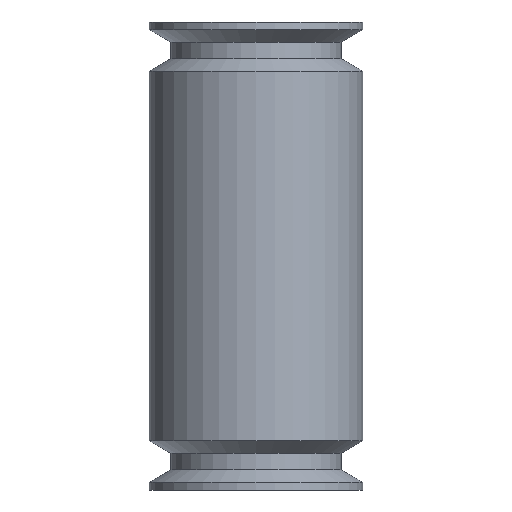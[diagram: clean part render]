
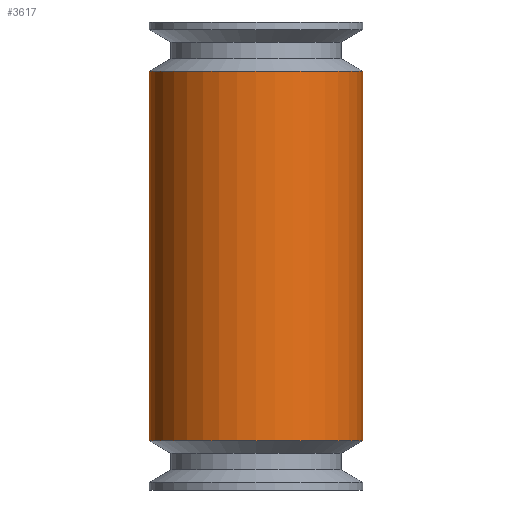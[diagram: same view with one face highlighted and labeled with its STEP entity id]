
A CAD part, front view. The second image highlights one B-rep face of the part: STEP entity #3617.
In plain terms, the highlighted cylindrical face has radius 32 mm (diameter 64 mm), a full revolution.
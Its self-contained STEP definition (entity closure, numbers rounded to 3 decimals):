
#2265=FACE_BOUND('',#5418,.T.);
#2266=FACE_BOUND('',#5419,.T.);
#2267=FACE_BOUND('',#5420,.T.);
#2439=CYLINDRICAL_SURFACE('',#15766,32.);
#2853=CIRCLE('',#15764,32.);
#2854=CIRCLE('',#15765,32.);
#3617=ADVANCED_FACE('',(#2265,#2266,#2267),#2439,.T.);
#5418=EDGE_LOOP('',(#9643));
#5419=EDGE_LOOP('',(#9644));
#5420=EDGE_LOOP('',(#9645,#9646,#9647,#9648,#9649,#9650,#9651,#9652));
#6167=B_SPLINE_CURVE_WITH_KNOTS('',3,(#32502,#32503,#32504,#32505),
 .UNSPECIFIED.,.F.,.F.,(4,4),(0.,1.),.UNSPECIFIED.);
#6168=B_SPLINE_CURVE_WITH_KNOTS('',3,(#32507,#32508,#32509,#32510,#32511,
#32512),.UNSPECIFIED.,.F.,.F.,(4,2,4),(0.,0.5,1.),.UNSPECIFIED.);
#6169=B_SPLINE_CURVE_WITH_KNOTS('',3,(#32514,#32515,#32516,#32517),
 .UNSPECIFIED.,.F.,.F.,(4,4),(0.,1.),.UNSPECIFIED.);
#6170=B_SPLINE_CURVE_WITH_KNOTS('',3,(#32518,#32519,#32520,#32521),
 .UNSPECIFIED.,.F.,.F.,(4,4),(0.,1.),.UNSPECIFIED.);
#6171=B_SPLINE_CURVE_WITH_KNOTS('',3,(#32523,#32524,#32525,#32526,#32527,
#32528),.UNSPECIFIED.,.F.,.F.,(4,2,4),(0.,0.5,1.),.UNSPECIFIED.);
#6172=B_SPLINE_CURVE_WITH_KNOTS('',3,(#32530,#32531,#32532,#32533),
 .UNSPECIFIED.,.F.,.F.,(4,4),(0.,1.),.UNSPECIFIED.);
#9643=ORIENTED_EDGE('',*,*,#12915,.T.);
#9644=ORIENTED_EDGE('',*,*,#12916,.T.);
#9645=ORIENTED_EDGE('',*,*,#12913,.T.);
#9646=ORIENTED_EDGE('',*,*,#12917,.T.);
#9647=ORIENTED_EDGE('',*,*,#12918,.T.);
#9648=ORIENTED_EDGE('',*,*,#12919,.T.);
#9649=ORIENTED_EDGE('',*,*,#12911,.T.);
#9650=ORIENTED_EDGE('',*,*,#12920,.T.);
#9651=ORIENTED_EDGE('',*,*,#12921,.T.);
#9652=ORIENTED_EDGE('',*,*,#12922,.T.);
#11085=VERTEX_POINT('',#32490);
#11086=VERTEX_POINT('',#32491);
#11087=VERTEX_POINT('',#32493);
#11088=VERTEX_POINT('',#32495);
#11089=VERTEX_POINT('',#32499);
#11090=VERTEX_POINT('',#32501);
#11091=VERTEX_POINT('',#32506);
#11092=VERTEX_POINT('',#32513);
#11093=VERTEX_POINT('',#32522);
#11094=VERTEX_POINT('',#32529);
#12911=EDGE_CURVE('',#11085,#11086,#13844,.T.);
#12913=EDGE_CURVE('',#11088,#11087,#13845,.T.);
#12915=EDGE_CURVE('',#11089,#11089,#2853,.T.);
#12916=EDGE_CURVE('',#11090,#11090,#2854,.T.);
#12917=EDGE_CURVE('',#11087,#11091,#6167,.T.);
#12918=EDGE_CURVE('',#11091,#11092,#6168,.T.);
#12919=EDGE_CURVE('',#11092,#11085,#6169,.T.);
#12920=EDGE_CURVE('',#11086,#11093,#6170,.T.);
#12921=EDGE_CURVE('',#11093,#11094,#6171,.T.);
#12922=EDGE_CURVE('',#11094,#11088,#6172,.T.);
#13844=LINE('',#32489,#14829);
#13845=LINE('',#32494,#14830);
#14829=VECTOR('',#18642,1.);
#14830=VECTOR('',#18645,1.);
#15764=AXIS2_PLACEMENT_3D('',#32498,#18650,#18651);
#15765=AXIS2_PLACEMENT_3D('',#32500,#18652,#18653);
#15766=AXIS2_PLACEMENT_3D('',#32534,#18654,#18655);
#18642=DIRECTION('',(0.,0.,-1.));
#18645=DIRECTION('',(0.,0.,1.));
#18650=DIRECTION('',(0.,0.,1.));
#18651=DIRECTION('',(1.,0.,0.));
#18652=DIRECTION('',(0.,0.,-1.));
#18653=DIRECTION('',(1.,0.,0.));
#18654=DIRECTION('',(0.,0.,1.));
#18655=DIRECTION('',(-1.,0.,0.));
#32489=CARTESIAN_POINT('',(-7.937,14.,30.));
#32490=CARTESIAN_POINT('',(-7.937,14.,152.014));
#32491=CARTESIAN_POINT('',(-7.937,14.,133.986));
#32493=CARTESIAN_POINT('',(7.937,14.,151.986));
#32494=CARTESIAN_POINT('',(7.937,14.,30.));
#32495=CARTESIAN_POINT('',(7.937,14.,134.014));
#32498=CARTESIAN_POINT('',(0.,-17.,104.753));
#32499=CARTESIAN_POINT('',(32.,-17.,104.753));
#32500=CARTESIAN_POINT('',(0.,-17.,215.247));
#32501=CARTESIAN_POINT('',(32.,-17.,215.247));
#32502=CARTESIAN_POINT('',(7.937,14.,151.986));
#32503=CARTESIAN_POINT('',(7.266,14.172,152.809));
#32504=CARTESIAN_POINT('',(6.504,14.344,153.535));
#32505=CARTESIAN_POINT('',(5.635,14.5,154.15));
#32506=CARTESIAN_POINT('',(5.635,14.5,154.15));
#32507=CARTESIAN_POINT('',(5.635,14.5,154.15));
#32508=CARTESIAN_POINT('',(3.895,14.811,155.032));
#32509=CARTESIAN_POINT('',(1.951,15.,155.497));
#32510=CARTESIAN_POINT('',(-1.943,15.,155.503));
#32511=CARTESIAN_POINT('',(-3.893,14.812,155.043));
#32512=CARTESIAN_POINT('',(-5.635,14.5,154.166));
#32513=CARTESIAN_POINT('',(-5.635,14.5,154.166));
#32514=CARTESIAN_POINT('',(-5.635,14.5,154.166));
#32515=CARTESIAN_POINT('',(-6.504,14.345,153.554));
#32516=CARTESIAN_POINT('',(-7.266,14.172,152.833));
#32517=CARTESIAN_POINT('',(-7.937,14.,152.014));
#32518=CARTESIAN_POINT('',(-7.937,14.,133.986));
#32519=CARTESIAN_POINT('',(-7.266,14.172,133.167));
#32520=CARTESIAN_POINT('',(-6.504,14.345,132.446));
#32521=CARTESIAN_POINT('',(-5.635,14.5,131.834));
#32522=CARTESIAN_POINT('',(-5.635,14.5,131.834));
#32523=CARTESIAN_POINT('',(-5.635,14.5,131.834));
#32524=CARTESIAN_POINT('',(-3.893,14.812,130.958));
#32525=CARTESIAN_POINT('',(-1.947,15.,130.498));
#32526=CARTESIAN_POINT('',(1.947,15.,130.502));
#32527=CARTESIAN_POINT('',(3.895,14.811,130.968));
#32528=CARTESIAN_POINT('',(5.635,14.5,131.85));
#32529=CARTESIAN_POINT('',(5.635,14.5,131.85));
#32530=CARTESIAN_POINT('',(5.635,14.5,131.85));
#32531=CARTESIAN_POINT('',(6.504,14.344,132.465));
#32532=CARTESIAN_POINT('',(7.266,14.172,133.191));
#32533=CARTESIAN_POINT('',(7.937,14.,134.014));
#32534=CARTESIAN_POINT('',(0.,-17.,30.));
